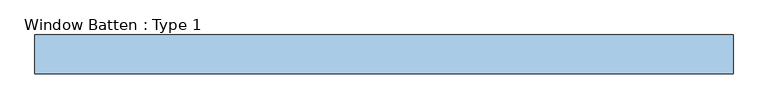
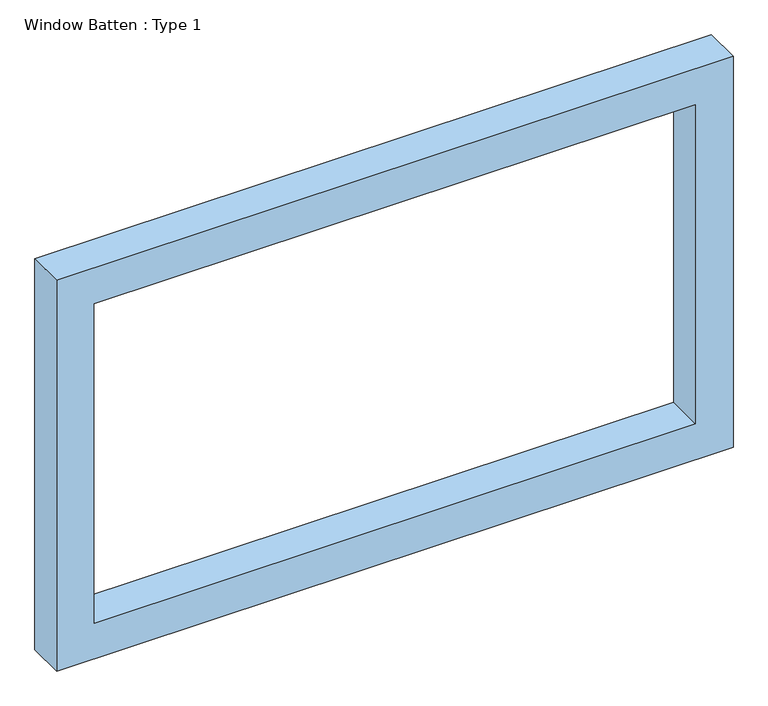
"""IFC4 building model written with IfcOpenShell, lengths in millimetres: window geometry, Window Batten : Type 1."""

import ifcopenshell
import ifcopenshell.guid

model = None  # the IFC model being written
_history = None  # IfcOwnerHistory: only IFC2X3 demands one
_inside = {}  # id of a spatial element -> (the spatial element, [elements in it])
_under = {}  # id of a project, library or spatial element -> (it, [spatial elements below it])
_declared = {}  # id of a project -> (the project, [libraries it declares])
_typed = {}  # id of a type object -> (the type object, [elements of that type])
_made_of = {}  # id of a material, layer set ... -> (it, [elements and type objects made of it])


def new_model(schema):
    """Start an empty IFC model of exactly this schema.

    Asked for "IFC4X3", IfcOpenShell would pick the latest addendum, in which some entities
    have other attributes; the version numbers below select the first issue.
    IFC2X3 requires an IfcOwnerHistory on every rooted entity: one is made here for all.
    """
    global model, _history
    if schema == "IFC4X3":
        model = ifcopenshell.file(schema_version=(4, 3, 0, 0))
    else:
        model = ifcopenshell.file(schema=schema)
    _inside.clear()
    _under.clear()
    _declared.clear()
    _typed.clear()
    _made_of.clear()
    _history = None
    if model.schema == "IFC2X3":
        org = make("IfcOrganization", Name="unknown")
        user = make(
            "IfcPersonAndOrganization",
            ThePerson=make("IfcPerson", FamilyName="unknown"),
            TheOrganization=org,
        )
        app = make(
            "IfcApplication",
            ApplicationDeveloper=org,
            Version="unknown",
            ApplicationFullName="unknown",
            ApplicationIdentifier="unknown",
        )
        _history = make(
            "IfcOwnerHistory",
            OwningUser=user,
            OwningApplication=app,
            ChangeAction="ADDED",
            CreationDate=0,
        )
    return model


def make(cls, **values):
    """One entity of the class cls with the attributes given. An attribute that is None is left unset."""
    return model.create_entity(
        cls, **{name: value for name, value in values.items() if value is not None}
    )


def rooted(cls, **values):
    """An entity with a GlobalId (a new one), such as an element, a storey or a relation."""
    return make(cls, GlobalId=ifcopenshell.guid.new(), OwnerHistory=_history, **values)


def si_unit(unit_type, name, prefix=None):
    """IfcSIUnit, for example si_unit("LENGTHUNIT", "METRE", prefix="MILLI")."""
    return make("IfcSIUnit", UnitType=unit_type, Prefix=prefix, Name=name)


def assignment(units):
    """IfcUnitAssignment: the units of a project."""
    return None if units is None else make("IfcUnitAssignment", Units=units)


def point(xyz):
    """IfcCartesianPoint."""
    return None if xyz is None else make("IfcCartesianPoint", Coordinates=xyz)


def direction(xyz):
    """IfcDirection."""
    return None if xyz is None else make("IfcDirection", DirectionRatios=xyz)


def frame(location, z_axis=None, x_axis=None):
    """IfcAxis2Placement3D, a coordinate frame: its origin and axes. An axis left out is left unset."""
    return make(
        "IfcAxis2Placement3D",
        Location=point(location),
        Axis=direction(z_axis),
        RefDirection=direction(x_axis),
    )


def origin():
    """The frame at (0, 0, 0) with its axes left unset."""
    return frame((0.0, 0.0, 0.0))


def place(relative_to, where):
    """IfcLocalPlacement: puts the frame where relative to a parent placement (None: the world)."""
    return make(
        "IfcLocalPlacement", PlacementRelTo=relative_to, RelativePlacement=where
    )


def context(
    kind, dimensions, precision=None, world=None, true_north=None, identifier=None
):
    """IfcGeometricRepresentationContext, for example the 3D "Model" context."""
    return make(
        "IfcGeometricRepresentationContext",
        ContextIdentifier=identifier,
        ContextType=kind,
        CoordinateSpaceDimension=dimensions,
        Precision=precision,
        WorldCoordinateSystem=world,
        TrueNorth=true_north,
    )


def project(units=None, contexts=None):
    """IfcProject with its units and contexts."""
    return rooted(
        "IfcProject",
        Name="project",
        RepresentationContexts=contexts,
        UnitsInContext=assignment(units),
    )


def spatial(cls, under=None, at=None, **own):
    """A site, building, storey or space (cls), placed at a placement, below another one or the project."""
    s = rooted(cls, ObjectPlacement=at, **own)
    if under is not None:
        _under.setdefault(under.id(), (under, []))[1].append(s)
    return s


def polyline(points):
    """IfcPolyline through the points."""
    return make("IfcPolyline", Points=[point(p) for p in points])


def outline(outer, holes=None, kind="AREA"):
    """IfcArbitraryClosedProfileDef: a profile drawn as a closed curve; with holes, ...WithVoids."""
    if holes is None:
        return make("IfcArbitraryClosedProfileDef", ProfileType=kind, OuterCurve=outer)
    return make(
        "IfcArbitraryProfileDefWithVoids",
        ProfileType=kind,
        OuterCurve=outer,
        InnerCurves=holes,
    )


def extrude(swept, where, along, depth):
    """IfcExtrudedAreaSolid: the profile swept, set in the frame where, extruded along a direction by depth."""
    return make(
        "IfcExtrudedAreaSolid",
        SweptArea=swept,
        Position=where,
        ExtrudedDirection=direction(along),
        Depth=depth,
    )


def shape(context_of_items, identifier, shape_type, items):
    """IfcShapeRepresentation: the items that make up one representation, for example the "Body"."""
    return make(
        "IfcShapeRepresentation",
        ContextOfItems=context_of_items,
        RepresentationIdentifier=identifier,
        RepresentationType=shape_type,
        Items=items,
    )


def source(mapping_origin, context_of_items, identifier, shape_type, items):
    """IfcRepresentationMap: a shape defined once, which mapped items show again and again."""
    return make(
        "IfcRepresentationMap",
        MappingOrigin=mapping_origin,
        MappedRepresentation=shape(context_of_items, identifier, shape_type, items),
    )


def transform(
    local_origin,
    x_axis=None,
    y_axis=None,
    z_axis=None,
    scale=None,
    scale2=None,
    scale3=None,
    uniform=True,
):
    """IfcCartesianTransformationOperator3D, or its non-uniform kind. x_axis, y_axis, z_axis: its Axis1, 2, 3."""
    if uniform:
        return make(
            "IfcCartesianTransformationOperator3D",
            Axis1=direction(x_axis),
            Axis2=direction(y_axis),
            LocalOrigin=point(local_origin),
            Scale=scale,
            Axis3=direction(z_axis),
        )
    return make(
        "IfcCartesianTransformationOperator3DnonUniform",
        Axis1=direction(x_axis),
        Axis2=direction(y_axis),
        LocalOrigin=point(local_origin),
        Scale=scale,
        Axis3=direction(z_axis),
        Scale2=scale2,
        Scale3=scale3,
    )


def mapped(mapping_source, mapping_target):
    """IfcMappedItem: shows the shape of a source again, moved by a transform."""
    return make(
        "IfcMappedItem", MappingSource=mapping_source, MappingTarget=mapping_target
    )


def made_of(thing, what):
    """Note that an element or type object is made of a material, layer set ...; save() writes the relation."""
    if what is not None:
        _made_of.setdefault(what.id(), (what, []))[1].append(thing)
    return thing


def element(
    cls,
    number,
    at=None,
    inside=None,
    cuts=None,
    type_object=None,
    material=None,
    context=None,
    identifier="Body",
    shape_type=None,
    held_by="IfcProductDefinitionShape",
    body=None,
    shapes=None,
    **own,
):
    """One element of the class cls, such as IfcWall. Its Tag is "e" and its number.

    at: its placement. inside: the storey or other place that contains it. cuts: it is an
    opening in that element (IfcRelVoidsElement). A single representation is given by context,
    identifier, shape_type and body (its items); several are given by shapes. held_by: the class
    of the entity that holds the representations. save() writes the other relations.
    """
    e = rooted(cls, Tag="e%d" % number, ObjectPlacement=at, **own)
    if body is not None:
        shapes = [shape(context, identifier, shape_type, body)]
    if shapes is not None:
        e.Representation = make(held_by, Representations=shapes)
    if inside is not None:
        _inside.setdefault(inside.id(), (inside, []))[1].append(e)
    if cuts is not None:
        rooted(
            "IfcRelVoidsElement", RelatingBuildingElement=cuts, RelatedOpeningElement=e
        )
    if type_object is not None:
        _typed.setdefault(type_object.id(), (type_object, []))[1].append(e)
    return made_of(e, material)


def aggregate(whole, parts):
    """IfcRelAggregates: a whole, such as a stair, and the parts it consists of."""
    return rooted("IfcRelAggregates", RelatingObject=whole, RelatedObjects=parts)


def save(model, path):
    """Write the relations noted so far, then the file.

    IfcRelAggregates (storeys below a building ...), IfcRelContainedInSpatialStructure (elements
    in a storey), IfcRelDefinesByType, IfcRelAssociatesMaterial and IfcRelDeclares: one each for
    every whole, place, type object, material and project.
    """
    for whole, parts in _under.values():
        aggregate(whole, parts)
    for where, things in _inside.values():
        rooted(
            "IfcRelContainedInSpatialStructure",
            RelatedElements=things,
            RelatingStructure=where,
        )
    for kind, things in _typed.values():
        rooted("IfcRelDefinesByType", RelatedObjects=things, RelatingType=kind)
    for what, things in _made_of.values():
        rooted("IfcRelAssociatesMaterial", RelatedObjects=things, RelatingMaterial=what)
    for by, libraries in _declared.values():
        rooted("IfcRelDeclares", RelatingContext=by, RelatedDefinitions=libraries)
    model.write(path)


def window_batten_type_1_65f01d97(model_context):
    return source(origin(), model_context, "Body", "SweptSolid", [
        extrude(outline(polyline([(2708.8484214, -1673.8691082), (512.7349099, -1673.8691082), (512.7349099, 1923.8691082), (2708.8484214, 1923.8691082), (2708.8484214, -1673.8691082)]), holes=[polyline([(2508.8484214, -1473.8691082), (2508.8484214, 1723.8691082), (712.7349099, 1723.8691082), (712.7349099, -1473.8691082), (2508.8484214, -1473.8691082)])]), frame((0.0, -310.0, 0.0), z_axis=(0.0, 1.0, 0.0), x_axis=(0.0, 0.0, 1.0)), (0.0, 0.0, 1.0), 200.0),
    ])


if __name__ == "__main__":
    model = new_model("IFC4")
    model_context = context("Model", 3, world=origin())
    ifc_project = project(units=[si_unit("LENGTHUNIT", "METRE", prefix="MILLI")], contexts=[model_context])
    site = spatial("IfcSite", under=ifc_project)
    building = spatial("IfcBuilding", under=site)
    placement = place(None, origin())
    window_batten_type_1_shape = window_batten_type_1_65f01d97(model_context)
    element("IfcWindow", 1, ObjectType="Window Batten : Type 1", at=placement, inside=building, context=model_context, shape_type="MappedRepresentation", body=[
        mapped(window_batten_type_1_shape, transform((0.0, 0.0, 0.0), x_axis=(1.0, 0.0, 0.0), y_axis=(0.0, 1.0, 0.0), z_axis=(0.0, 0.0, 1.0))),
    ])
    save(model, "model.ifc")
